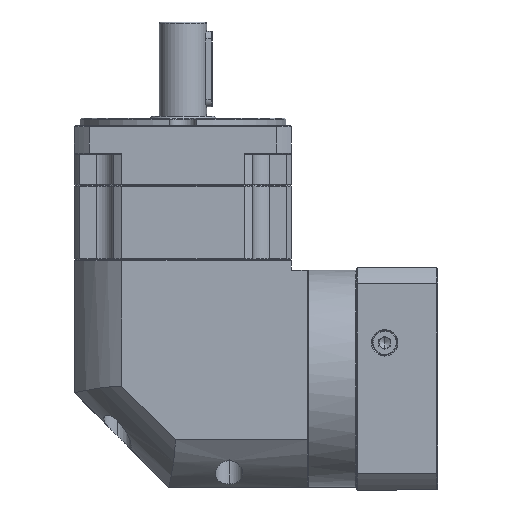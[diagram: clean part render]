
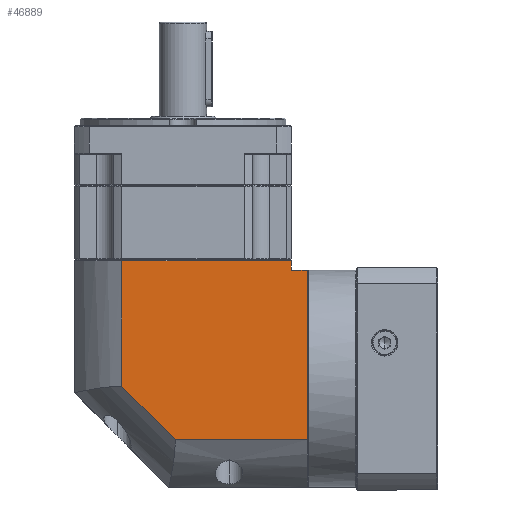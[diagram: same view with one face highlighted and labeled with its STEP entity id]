
A CAD part, left-side view. The second image highlights one B-rep face of the part: STEP entity #46889.
In plain terms, the highlighted planar face has unit normal (-1, 0, 0).
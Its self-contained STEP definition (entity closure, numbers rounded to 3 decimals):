
#2267 = LINE ( 'NONE', #26611, #140746 ) ;
#2747 = DIRECTION ( 'NONE',  ( 0., 0., -1. ) ) ;
#3236 = CARTESIAN_POINT ( 'NONE',  ( -284.014, -8.932, 27.382 ) ) ;
#8925 = CARTESIAN_POINT ( 'NONE',  ( -284.014, -8.932, 33.882 ) ) ;
#9267 = ORIENTED_EDGE ( 'NONE', *, *, #159537, .F. ) ;
#13572 = CARTESIAN_POINT ( 'NONE',  ( -284.014, -107.232, -67.518 ) ) ;
#14205 = EDGE_CURVE ( 'NONE', #100037, #53810, #67413, .T. ) ;
#16981 = VERTEX_POINT ( 'NONE', #162415 ) ;
#18464 = ORIENTED_EDGE ( 'NONE', *, *, #71070, .F. ) ;
#18712 = DIRECTION ( 'NONE',  ( 0., 1., 0. ) ) ;
#24056 = EDGE_CURVE ( 'NONE', #103961, #16981, #2267, .T. ) ;
#26611 = CARTESIAN_POINT ( 'NONE',  ( -284.014, 16.168, -67.518 ) ) ;
#31776 = VECTOR ( 'NONE', #143111, 1000. ) ;
#32291 = LINE ( 'NONE', #163420, #135122 ) ;
#38032 = ORIENTED_EDGE ( 'NONE', *, *, #14205, .F. ) ;
#38768 = EDGE_CURVE ( 'NONE', #47327, #124281, #43728, .T. ) ;
#38871 = CARTESIAN_POINT ( 'NONE',  ( -284.014, -107.232, 22.382 ) ) ;
#41146 = DIRECTION ( 'NONE',  ( 0., 0., 1. ) ) ;
#43728 = LINE ( 'NONE', #54089, #52192 ) ;
#46889 = ADVANCED_FACE ( 'NONE', ( #169857 ), #96034, .F. ) ;
#47327 = VERTEX_POINT ( 'NONE', #94083 ) ;
#49977 = LINE ( 'NONE', #172318, #104554 ) ;
#52192 = VECTOR ( 'NONE', #41146, 1000. ) ;
#53810 = VERTEX_POINT ( 'NONE', #3236 ) ;
#54089 = CARTESIAN_POINT ( 'NONE',  ( -284.014, -98.832, -92.618 ) ) ;
#59255 = AXIS2_PLACEMENT_3D ( 'NONE', #149952, #69566, #163430 ) ;
#59331 = CARTESIAN_POINT ( 'NONE',  ( -284.014, -37.27, -67.518 ) ) ;
#64859 = ORIENTED_EDGE ( 'NONE', *, *, #24056, .F. ) ;
#65797 = CARTESIAN_POINT ( 'NONE',  ( -284.014, -8.932, -39.18 ) ) ;
#67413 = LINE ( 'NONE', #8925, #31776 ) ;
#69566 = DIRECTION ( 'NONE',  ( 1., 0., 0. ) ) ;
#71070 = EDGE_CURVE ( 'NONE', #53810, #124281, #49977, .T. ) ;
#80510 = DIRECTION ( 'NONE',  ( 0., 1., 0. ) ) ;
#87538 = ORIENTED_EDGE ( 'NONE', *, *, #38768, .T. ) ;
#92398 = EDGE_CURVE ( 'NONE', #95592, #47327, #134899, .T. ) ;
#94083 = CARTESIAN_POINT ( 'NONE',  ( -284.014, -98.832, 22.382 ) ) ;
#95592 = VERTEX_POINT ( 'NONE', #38871 ) ;
#96034 = PLANE ( 'NONE',  #59255 ) ;
#97940 = VECTOR ( 'NONE', #166644, 1000. ) ;
#100037 = VERTEX_POINT ( 'NONE', #65797 ) ;
#103961 = VERTEX_POINT ( 'NONE', #13572 ) ;
#104554 = VECTOR ( 'NONE', #105547, 1000. ) ;
#105547 = DIRECTION ( 'NONE',  ( 0., -1., 0. ) ) ;
#105640 = EDGE_CURVE ( 'NONE', #95592, #103961, #32291, .T. ) ;
#110094 = CARTESIAN_POINT ( 'NONE',  ( -284.014, -98.832, 27.382 ) ) ;
#112599 = CARTESIAN_POINT ( 'NONE',  ( -284.014, -98.832, 22.382 ) ) ;
#124281 = VERTEX_POINT ( 'NONE', #110094 ) ;
#125576 = ORIENTED_EDGE ( 'NONE', *, *, #105640, .F. ) ;
#127635 = EDGE_LOOP ( 'NONE', ( #38032, #9267, #64859, #125576, #172450, #87538, #18464 ) ) ;
#130725 = VECTOR ( 'NONE', #18712, 1000. ) ;
#134899 = LINE ( 'NONE', #112599, #130725 ) ;
#135122 = VECTOR ( 'NONE', #2747, 1000. ) ;
#137745 = LINE ( 'NONE', #59331, #97940 ) ;
#140746 = VECTOR ( 'NONE', #80510, 1000. ) ;
#143111 = DIRECTION ( 'NONE',  ( 0., 0., 1. ) ) ;
#149952 = CARTESIAN_POINT ( 'NONE',  ( -284.014, 16.168, 33.882 ) ) ;
#159537 = EDGE_CURVE ( 'NONE', #16981, #100037, #137745, .T. ) ;
#162415 = CARTESIAN_POINT ( 'NONE',  ( -284.014, -37.27, -67.518 ) ) ;
#163420 = CARTESIAN_POINT ( 'NONE',  ( -284.014, -107.232, 33.882 ) ) ;
#163430 = DIRECTION ( 'NONE',  ( 0., 1., 0. ) ) ;
#166644 = DIRECTION ( 'NONE',  ( 0., 0.707, 0.707 ) ) ;
#169857 = FACE_OUTER_BOUND ( 'NONE', #127635, .T. ) ;
#172318 = CARTESIAN_POINT ( 'NONE',  ( -284.014, 16.168, 27.382 ) ) ;
#172450 = ORIENTED_EDGE ( 'NONE', *, *, #92398, .T. ) ;
